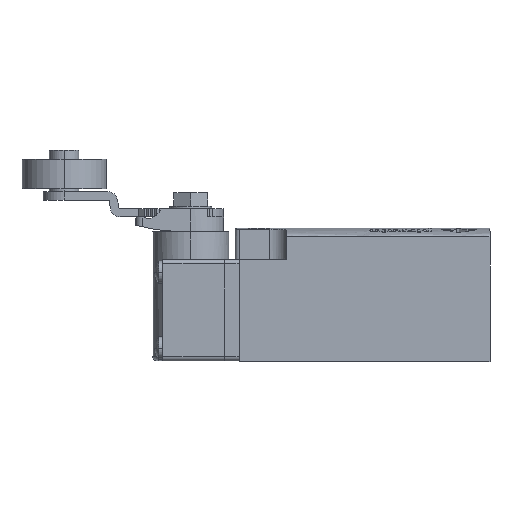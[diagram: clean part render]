
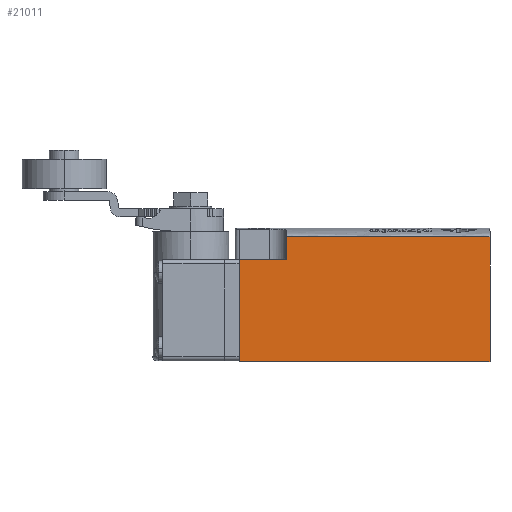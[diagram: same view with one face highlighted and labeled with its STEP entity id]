
A CAD part, left-side view. The second image highlights one B-rep face of the part: STEP entity #21011.
In plain terms, the highlighted planar face has unit normal (-1, 0, 0).
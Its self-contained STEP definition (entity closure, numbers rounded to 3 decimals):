
#1160 = DIRECTION ( 'NONE',  ( 0., 1., 0. ) ) ;
#1168 = EDGE_CURVE ( 'NONE', #22651, #21608, #6282, .T. ) ;
#1638 = EDGE_CURVE ( 'NONE', #4723, #22929, #16386, .T. ) ;
#2025 = LINE ( 'NONE', #20435, #2506 ) ;
#2506 = VECTOR ( 'NONE', #25548, 1000. ) ;
#3202 = PLANE ( 'NONE',  #13907 ) ;
#3628 = VERTEX_POINT ( 'NONE', #5323 ) ;
#3734 = DIRECTION ( 'NONE',  ( 0., -1., 0. ) ) ;
#4497 = VECTOR ( 'NONE', #3734, 1000. ) ;
#4723 = VERTEX_POINT ( 'NONE', #30240 ) ;
#5192 = ORIENTED_EDGE ( 'NONE', *, *, #1638, .F. ) ;
#5323 = CARTESIAN_POINT ( 'NONE',  ( -15.6, 28., -12.2 ) ) ;
#6282 = LINE ( 'NONE', #27092, #4497 ) ;
#7147 = CARTESIAN_POINT ( 'NONE',  ( -15.6, 16.7, 17.4 ) ) ;
#8466 = DIRECTION ( 'NONE',  ( 1., 0., 0. ) ) ;
#9113 = EDGE_CURVE ( 'NONE', #22651, #3628, #2025, .T. ) ;
#10787 = VECTOR ( 'NONE', #12605, 1000. ) ;
#11863 = CARTESIAN_POINT ( 'NONE',  ( -15.6, -31.5, 17.4 ) ) ;
#12605 = DIRECTION ( 'NONE',  ( 0., 0., 1. ) ) ;
#13603 = CARTESIAN_POINT ( 'NONE',  ( -15.6, -31.5, 19.4 ) ) ;
#13907 = AXIS2_PLACEMENT_3D ( 'NONE', #13603, #8466, #1160 ) ;
#14566 = ORIENTED_EDGE ( 'NONE', *, *, #16484, .T. ) ;
#16386 = LINE ( 'NONE', #26154, #18646 ) ;
#16484 = EDGE_CURVE ( 'NONE', #4723, #30025, #21466, .T. ) ;
#17722 = LINE ( 'NONE', #28288, #10787 ) ;
#18528 = ORIENTED_EDGE ( 'NONE', *, *, #9113, .T. ) ;
#18638 = CARTESIAN_POINT ( 'NONE',  ( -15.6, 28., 12. ) ) ;
#18646 = VECTOR ( 'NONE', #29528, 1000. ) ;
#19108 = LINE ( 'NONE', #21838, #20457 ) ;
#19371 = CARTESIAN_POINT ( 'NONE',  ( -15.6, -15.433, 17.4 ) ) ;
#20435 = CARTESIAN_POINT ( 'NONE',  ( -15.6, 28., 19.4 ) ) ;
#20457 = VECTOR ( 'NONE', #32732, 1000. ) ;
#20568 = ORIENTED_EDGE ( 'NONE', *, *, #1168, .F. ) ;
#21011 = ADVANCED_FACE ( 'NONE', ( #21964 ), #3202, .F. ) ;
#21466 = B_SPLINE_CURVE_WITH_KNOTS ( 'NONE', 3,
 ( #11863, #19371, #32491, #21580 ),
 .UNSPECIFIED., .F., .F.,
 ( 4, 4 ),
 ( 0., 1. ),
 .UNSPECIFIED. ) ;
#21580 = CARTESIAN_POINT ( 'NONE',  ( -15.6, 16.7, 17.4 ) ) ;
#21608 = VERTEX_POINT ( 'NONE', #29169 ) ;
#21646 = EDGE_CURVE ( 'NONE', #3628, #22929, #19108, .T. ) ;
#21838 = CARTESIAN_POINT ( 'NONE',  ( -15.6, -31.5, -12.2 ) ) ;
#21964 = FACE_OUTER_BOUND ( 'NONE', #28077, .T. ) ;
#22651 = VERTEX_POINT ( 'NONE', #18638 ) ;
#22929 = VERTEX_POINT ( 'NONE', #28831 ) ;
#25548 = DIRECTION ( 'NONE',  ( 0., 0., -1. ) ) ;
#26154 = CARTESIAN_POINT ( 'NONE',  ( -15.6, -31.5, 19.4 ) ) ;
#27092 = CARTESIAN_POINT ( 'NONE',  ( -15.6, 28., 12. ) ) ;
#28077 = EDGE_LOOP ( 'NONE', ( #5192, #14566, #33645, #20568, #18528, #31432 ) ) ;
#28288 = CARTESIAN_POINT ( 'NONE',  ( -15.6, 16.7, 12. ) ) ;
#28831 = CARTESIAN_POINT ( 'NONE',  ( -15.6, -31.5, -12.2 ) ) ;
#29169 = CARTESIAN_POINT ( 'NONE',  ( -15.6, 16.7, 12. ) ) ;
#29528 = DIRECTION ( 'NONE',  ( 0., 0., -1. ) ) ;
#30019 = EDGE_CURVE ( 'NONE', #21608, #30025, #17722, .T. ) ;
#30025 = VERTEX_POINT ( 'NONE', #7147 ) ;
#30240 = CARTESIAN_POINT ( 'NONE',  ( -15.6, -31.5, 17.4 ) ) ;
#31432 = ORIENTED_EDGE ( 'NONE', *, *, #21646, .T. ) ;
#32491 = CARTESIAN_POINT ( 'NONE',  ( -15.6, 0.633, 17.4 ) ) ;
#32732 = DIRECTION ( 'NONE',  ( 0., -1., 0. ) ) ;
#33645 = ORIENTED_EDGE ( 'NONE', *, *, #30019, .F. ) ;
